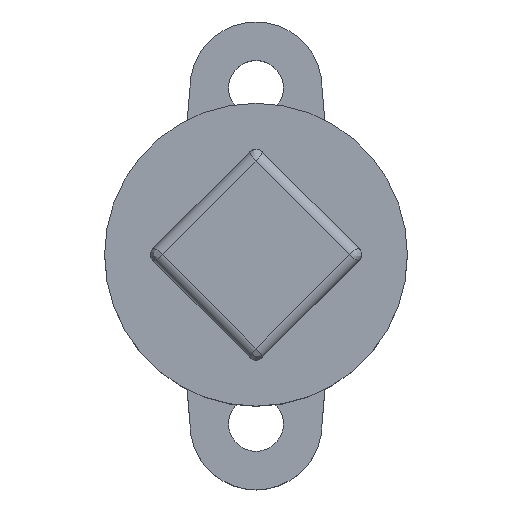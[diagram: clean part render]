
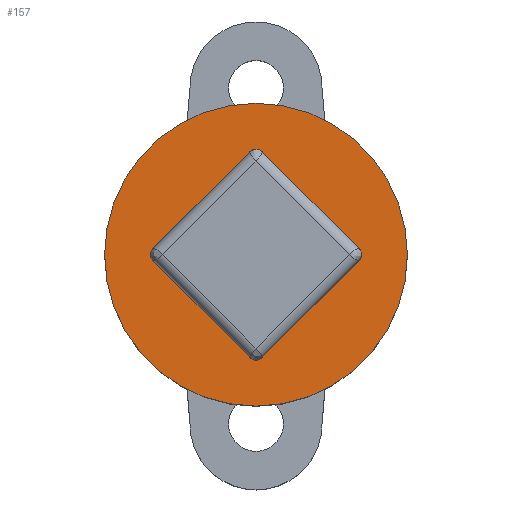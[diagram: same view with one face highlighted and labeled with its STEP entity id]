
A CAD part, top view. The second image highlights one B-rep face of the part: STEP entity #157.
In plain terms, the highlighted planar face has unit normal (0, 0, 1).
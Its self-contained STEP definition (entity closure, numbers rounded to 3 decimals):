
#35=AXIS2_PLACEMENT_3D('Plane Axis2P3D',#32,#33,#34) ;
#39=AXIS2_PLACEMENT_3D('Circle Axis2P3D',#37,#38,$) ;
#48=AXIS2_PLACEMENT_3D('Circle Axis2P3D',#46,#47,$) ;
#32=CARTESIAN_POINT('Axis2P3D Location',(0.,0.,139.)) ;
#37=CARTESIAN_POINT('Axis2P3D Location',(0.,0.,139.)) ;
#41=CARTESIAN_POINT('Vertex',(27.5,0.,139.)) ;
#43=CARTESIAN_POINT('Vertex',(-27.5,0.,139.)) ;
#46=CARTESIAN_POINT('Axis2P3D Location',(0.,0.,139.)) ;
#56=CARTESIAN_POINT('Control Point',(-18.734,-1.065,139.)) ;
#57=CARTESIAN_POINT('Control Point',(-18.862,-0.939,139.)) ;
#58=CARTESIAN_POINT('Control Point',(-18.97,-0.793,139.)) ;
#59=CARTESIAN_POINT('Control Point',(-19.056,-0.631,139.)) ;
#60=CARTESIAN_POINT('Control Point',(-19.177,-0.288,139.)) ;
#61=CARTESIAN_POINT('Control Point',(-19.192,0.076,139.)) ;
#62=CARTESIAN_POINT('Control Point',(-19.172,0.257,139.)) ;
#63=CARTESIAN_POINT('Control Point',(-19.095,0.545,139.)) ;
#64=CARTESIAN_POINT('Control Point',(-18.952,0.804,139.)) ;
#65=CARTESIAN_POINT('Control Point',(-18.887,0.899,139.)) ;
#66=CARTESIAN_POINT('Control Point',(-18.813,0.987,139.)) ;
#67=CARTESIAN_POINT('Control Point',(-18.732,1.067,139.)) ;
#68=CARTESIAN_POINT('Vertex',(-18.734,-1.065,139.)) ;
#70=CARTESIAN_POINT('Vertex',(-18.732,1.067,139.)) ;
#73=CARTESIAN_POINT('Line Origine',(-9.899,9.899,139.)) ;
#77=CARTESIAN_POINT('Vertex',(-1.067,18.732,139.)) ;
#81=CARTESIAN_POINT('Control Point',(-1.067,18.732,139.)) ;
#82=CARTESIAN_POINT('Control Point',(-0.941,18.86,139.)) ;
#83=CARTESIAN_POINT('Control Point',(-0.795,18.969,139.)) ;
#84=CARTESIAN_POINT('Control Point',(-0.634,19.055,139.)) ;
#85=CARTESIAN_POINT('Control Point',(-0.291,19.177,139.)) ;
#86=CARTESIAN_POINT('Control Point',(0.073,19.192,139.)) ;
#87=CARTESIAN_POINT('Control Point',(0.255,19.173,139.)) ;
#88=CARTESIAN_POINT('Control Point',(0.541,19.096,139.)) ;
#89=CARTESIAN_POINT('Control Point',(0.799,18.955,139.)) ;
#90=CARTESIAN_POINT('Control Point',(0.893,18.891,139.)) ;
#91=CARTESIAN_POINT('Control Point',(0.981,18.818,139.)) ;
#92=CARTESIAN_POINT('Control Point',(1.061,18.738,139.)) ;
#93=CARTESIAN_POINT('Vertex',(1.061,18.738,139.)) ;
#96=CARTESIAN_POINT('Line Origine',(9.9,9.899,139.)) ;
#100=CARTESIAN_POINT('Vertex',(18.738,1.061,139.)) ;
#104=CARTESIAN_POINT('Control Point',(18.738,1.061,139.)) ;
#105=CARTESIAN_POINT('Control Point',(18.866,0.933,139.)) ;
#106=CARTESIAN_POINT('Control Point',(18.974,0.787,139.)) ;
#107=CARTESIAN_POINT('Control Point',(19.059,0.625,139.)) ;
#108=CARTESIAN_POINT('Control Point',(19.179,0.281,139.)) ;
#109=CARTESIAN_POINT('Control Point',(19.192,-0.082,139.)) ;
#110=CARTESIAN_POINT('Control Point',(19.171,-0.264,139.)) ;
#111=CARTESIAN_POINT('Control Point',(19.093,-0.549,139.)) ;
#112=CARTESIAN_POINT('Control Point',(18.95,-0.806,139.)) ;
#113=CARTESIAN_POINT('Control Point',(18.886,-0.899,139.)) ;
#114=CARTESIAN_POINT('Control Point',(18.814,-0.986,139.)) ;
#115=CARTESIAN_POINT('Control Point',(18.734,-1.065,139.)) ;
#116=CARTESIAN_POINT('Vertex',(18.734,-1.065,139.)) ;
#119=CARTESIAN_POINT('Line Origine',(9.899,-9.899,139.)) ;
#123=CARTESIAN_POINT('Vertex',(1.065,-18.734,139.)) ;
#127=CARTESIAN_POINT('Control Point',(1.065,-18.734,139.)) ;
#128=CARTESIAN_POINT('Control Point',(0.939,-18.862,139.)) ;
#129=CARTESIAN_POINT('Control Point',(0.793,-18.97,139.)) ;
#130=CARTESIAN_POINT('Control Point',(0.631,-19.056,139.)) ;
#131=CARTESIAN_POINT('Control Point',(0.288,-19.177,139.)) ;
#132=CARTESIAN_POINT('Control Point',(-0.076,-19.192,139.)) ;
#133=CARTESIAN_POINT('Control Point',(-0.257,-19.172,139.)) ;
#134=CARTESIAN_POINT('Control Point',(-0.543,-19.096,139.)) ;
#135=CARTESIAN_POINT('Control Point',(-0.8,-18.954,139.)) ;
#136=CARTESIAN_POINT('Control Point',(-0.894,-18.89,139.)) ;
#137=CARTESIAN_POINT('Control Point',(-0.981,-18.818,139.)) ;
#138=CARTESIAN_POINT('Control Point',(-1.061,-18.738,139.)) ;
#139=CARTESIAN_POINT('Vertex',(-1.061,-18.738,139.)) ;
#142=CARTESIAN_POINT('Line Origine',(-9.899,-9.899,139.)) ;
#33=DIRECTION('Axis2P3D Direction',(0.,0.,1.)) ;
#34=DIRECTION('Axis2P3D XDirection',(1.,0.,0.)) ;
#38=DIRECTION('Axis2P3D Direction',(0.,0.,1.)) ;
#47=DIRECTION('Axis2P3D Direction',(0.,0.,1.)) ;
#74=DIRECTION('Vector Direction',(0.707,0.707,0.)) ;
#97=DIRECTION('Vector Direction',(0.707,-0.707,0.)) ;
#120=DIRECTION('Vector Direction',(-0.707,-0.707,0.)) ;
#143=DIRECTION('Vector Direction',(-0.707,0.707,0.)) ;
#75=VECTOR('Line Direction',#74,1.) ;
#98=VECTOR('Line Direction',#97,1.) ;
#121=VECTOR('Line Direction',#120,1.) ;
#144=VECTOR('Line Direction',#143,1.) ;
#52=ORIENTED_EDGE('',*,*,#45,.T.) ;
#53=ORIENTED_EDGE('',*,*,#50,.T.) ;
#148=ORIENTED_EDGE('',*,*,#72,.T.) ;
#149=ORIENTED_EDGE('',*,*,#79,.T.) ;
#150=ORIENTED_EDGE('',*,*,#95,.T.) ;
#151=ORIENTED_EDGE('',*,*,#102,.T.) ;
#152=ORIENTED_EDGE('',*,*,#118,.T.) ;
#153=ORIENTED_EDGE('',*,*,#125,.T.) ;
#154=ORIENTED_EDGE('',*,*,#141,.T.) ;
#155=ORIENTED_EDGE('',*,*,#146,.T.) ;
#156=FACE_BOUND('',#147,.T.) ;
#157=ADVANCED_FACE('ZAK34-Adapter',(#54,#156),#36,.T.) ;
#55=B_SPLINE_CURVE_WITH_KNOTS('',5,(#56,#57,#58,#59,#60,#61,#62,#63,#64,#65,#66,#67),.UNSPECIFIED.,.F.,.U.,(6,3,3,6),(0.,1.273,2.546,3.355),.UNSPECIFIED.) ;
#80=B_SPLINE_CURVE_WITH_KNOTS('',5,(#81,#82,#83,#84,#85,#86,#87,#88,#89,#90,#91,#92),.UNSPECIFIED.,.F.,.U.,(6,3,3,6),(0.,1.273,2.546,3.345),.UNSPECIFIED.) ;
#103=B_SPLINE_CURVE_WITH_KNOTS('',5,(#104,#105,#106,#107,#108,#109,#110,#111,#112,#113,#114,#115),.UNSPECIFIED.,.F.,.U.,(6,3,3,6),(0.,1.273,2.546,3.341),.UNSPECIFIED.) ;
#126=B_SPLINE_CURVE_WITH_KNOTS('',5,(#127,#128,#129,#130,#131,#132,#133,#134,#135,#136,#137,#138),.UNSPECIFIED.,.F.,.U.,(6,3,3,6),(0.,1.273,2.546,3.341),.UNSPECIFIED.) ;
#40=CIRCLE('generated circle',#39,27.5) ;
#49=CIRCLE('generated circle',#48,27.5) ;
#45=EDGE_CURVE('',#42,#44,#40,.T.) ;
#50=EDGE_CURVE('',#44,#42,#49,.T.) ;
#72=EDGE_CURVE('',#69,#71,#55,.T.) ;
#79=EDGE_CURVE('',#71,#78,#76,.T.) ;
#95=EDGE_CURVE('',#78,#94,#80,.T.) ;
#102=EDGE_CURVE('',#94,#101,#99,.T.) ;
#118=EDGE_CURVE('',#101,#117,#103,.T.) ;
#125=EDGE_CURVE('',#117,#124,#122,.T.) ;
#141=EDGE_CURVE('',#124,#140,#126,.T.) ;
#146=EDGE_CURVE('',#140,#69,#145,.T.) ;
#51=EDGE_LOOP('',(#52,#53)) ;
#147=EDGE_LOOP('',(#148,#149,#150,#151,#152,#153,#154,#155)) ;
#54=FACE_OUTER_BOUND('',#51,.T.) ;
#76=LINE('Line',#73,#75) ;
#99=LINE('Line',#96,#98) ;
#122=LINE('Line',#119,#121) ;
#145=LINE('Line',#142,#144) ;
#36=PLANE('',#35) ;
#42=VERTEX_POINT('',#41) ;
#44=VERTEX_POINT('',#43) ;
#69=VERTEX_POINT('',#68) ;
#71=VERTEX_POINT('',#70) ;
#78=VERTEX_POINT('',#77) ;
#94=VERTEX_POINT('',#93) ;
#101=VERTEX_POINT('',#100) ;
#117=VERTEX_POINT('',#116) ;
#124=VERTEX_POINT('',#123) ;
#140=VERTEX_POINT('',#139) ;
